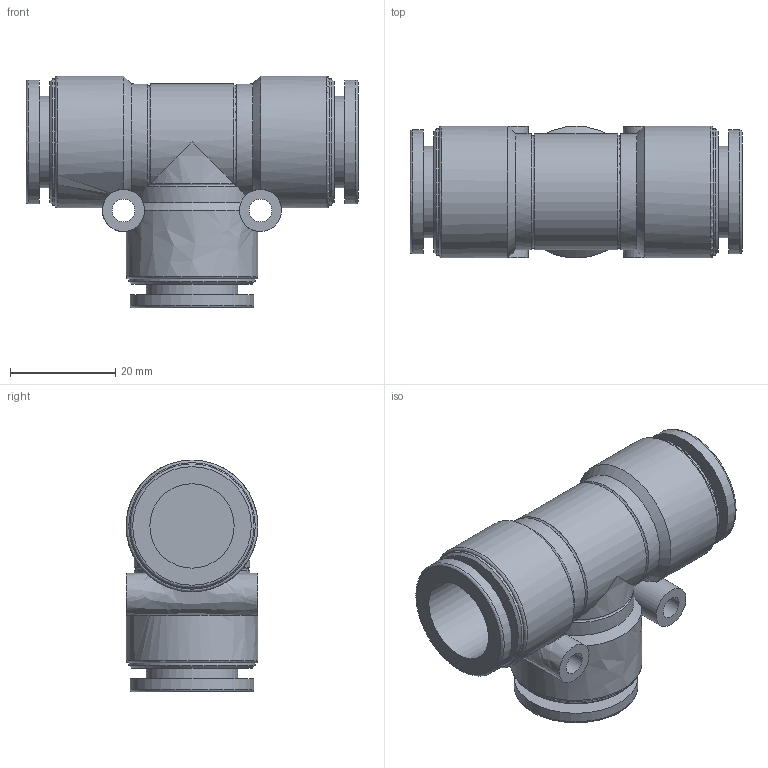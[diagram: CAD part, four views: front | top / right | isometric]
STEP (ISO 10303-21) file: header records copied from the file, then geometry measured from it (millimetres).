
FILE_DESCRIPTION((''),'2;1');
FILE_NAME('E:\2012年度板ﾃﾞｰﾀ\CHIYODA 3D-CAD DATA (Inventor 11)\TOUCH CONNECTOR FIVE (Inventor 11)\[17] UNION TEE\[06] FR16-00UT FR16-00UTW.stp','2012-03-21T16:23:57',('kazuhiro.t'),(''),'Autodesk Inventor 11','Autodesk Inventor 11','');
FILE_SCHEMA(('AUTOMOTIVE_DESIGN { 1 0 10303 214 1 1 1 1 }'));
Length unit declared in the file: millimetre
Products named in the file (1): [06] FR16-00UT FR16-00UTW
Bounding box: 63 x 25 x 44 mm (x, y, z)
Volume: 23686.5 mm3; surface area: 13269.3 mm2
Topology: 1 solids, 1 shells, 59 faces, 126 edges, 78 vertices
Faces by surface type: bspline 31, cylinder 12, plane 9, torus 4, cone 3
Full cylindrical faces by diameter (mm): 4.3 x1, 8 x1, 16 x1, 17.4 x2, 23.5 x2, 24 x2, 25 x1
Entity records: 2269 total; most frequent: CARTESIAN_POINT 1215, DIRECTION 188, ORIENTED_EDGE 186, EDGE_LOOP 102, AXIS2_PLACEMENT_3D 94, EDGE_CURVE 93, VERTEX_POINT 75, FACE_OUTER_BOUND 59
